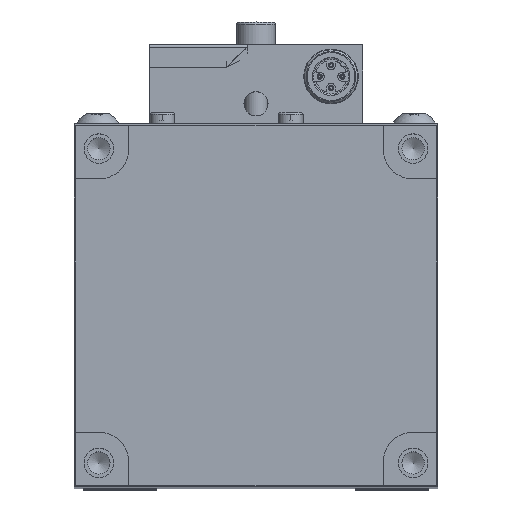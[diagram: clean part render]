
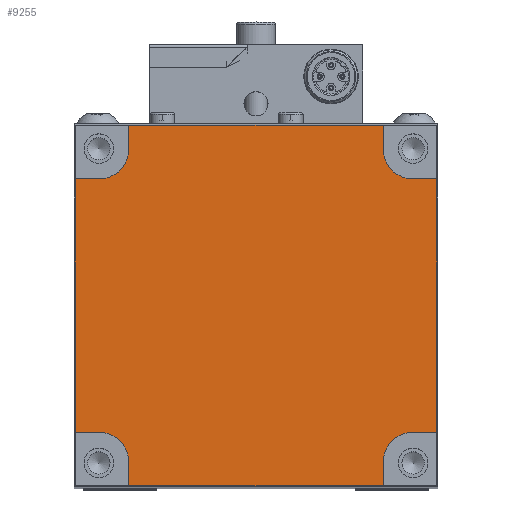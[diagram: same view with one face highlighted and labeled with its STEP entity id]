
A CAD part, top view. The second image highlights one B-rep face of the part: STEP entity #9255.
In plain terms, the highlighted planar face has unit normal (0, 0, 1).
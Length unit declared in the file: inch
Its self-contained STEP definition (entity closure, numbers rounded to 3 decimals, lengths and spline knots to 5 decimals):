
#363=PLANE('',#9994);
#849=FACE_OUTER_BOUND('',#1386,.T.);
#1386=EDGE_LOOP('',(#6848,#6849,#6850,#6851,#6852,#6853,#6854,#6855,#6856,
#6857,#6858,#6859,#6860,#6861,#6862,#6863));
#1976=LINE('',#14865,#2641);
#1983=LINE('',#14886,#2648);
#1990=LINE('',#14904,#2655);
#1994=LINE('',#14912,#2659);
#2002=LINE('',#14927,#2667);
#2007=LINE('',#14941,#2672);
#2010=LINE('',#14946,#2675);
#2013=LINE('',#14957,#2678);
#2015=LINE('',#14961,#2680);
#2016=LINE('',#14964,#2681);
#2017=LINE('',#14967,#2682);
#2018=LINE('',#14970,#2683);
#2641=VECTOR('',#11662,0.3937);
#2648=VECTOR('',#11679,0.3937);
#2655=VECTOR('',#11694,0.3937);
#2659=VECTOR('',#11700,0.3937);
#2667=VECTOR('',#11710,0.3937);
#2672=VECTOR('',#11723,0.3937);
#2675=VECTOR('',#11728,0.3937);
#2678=VECTOR('',#11739,0.3937);
#2680=VECTOR('',#11743,0.3937);
#2681=VECTOR('',#11746,0.3937);
#2682=VECTOR('',#11749,0.3937);
#2683=VECTOR('',#11752,0.3937);
#3284=CIRCLE('',#9995,0.25);
#3285=CIRCLE('',#9996,0.25);
#3286=CIRCLE('',#9997,0.25);
#3287=CIRCLE('',#9998,0.25);
#3972=VERTEX_POINT('',#14862);
#3973=VERTEX_POINT('',#14864);
#3981=VERTEX_POINT('',#14883);
#3982=VERTEX_POINT('',#14885);
#3989=VERTEX_POINT('',#14903);
#3991=VERTEX_POINT('',#14909);
#3992=VERTEX_POINT('',#14911);
#3997=VERTEX_POINT('',#14924);
#3998=VERTEX_POINT('',#14926);
#4003=VERTEX_POINT('',#14940);
#4004=VERTEX_POINT('',#14944);
#4008=VERTEX_POINT('',#14956);
#4009=VERTEX_POINT('',#14960);
#4010=VERTEX_POINT('',#14963);
#4011=VERTEX_POINT('',#14966);
#4012=VERTEX_POINT('',#14968);
#5026=EDGE_CURVE('',#3973,#3972,#1976,.T.);
#5036=EDGE_CURVE('',#3982,#3981,#1983,.T.);
#5045=EDGE_CURVE('',#3989,#3973,#1990,.T.);
#5049=EDGE_CURVE('',#3992,#3991,#1994,.T.);
#5057=EDGE_CURVE('',#3998,#3997,#2002,.T.);
#5064=EDGE_CURVE('',#4003,#3992,#2007,.T.);
#5067=EDGE_CURVE('',#3981,#4004,#2010,.T.);
#5072=EDGE_CURVE('',#4008,#3998,#2013,.T.);
#5074=EDGE_CURVE('',#3972,#4009,#2015,.T.);
#5075=EDGE_CURVE('',#4009,#4008,#3284,.T.);
#5076=EDGE_CURVE('',#3997,#4010,#2016,.T.);
#5077=EDGE_CURVE('',#4010,#4003,#3285,.T.);
#5078=EDGE_CURVE('',#3991,#4011,#2017,.T.);
#5079=EDGE_CURVE('',#4011,#4012,#3286,.T.);
#5080=EDGE_CURVE('',#4012,#3982,#2018,.T.);
#5081=EDGE_CURVE('',#4004,#3989,#3287,.T.);
#6848=ORIENTED_EDGE('',*,*,#5026,.T.);
#6849=ORIENTED_EDGE('',*,*,#5074,.T.);
#6850=ORIENTED_EDGE('',*,*,#5075,.T.);
#6851=ORIENTED_EDGE('',*,*,#5072,.T.);
#6852=ORIENTED_EDGE('',*,*,#5057,.T.);
#6853=ORIENTED_EDGE('',*,*,#5076,.T.);
#6854=ORIENTED_EDGE('',*,*,#5077,.T.);
#6855=ORIENTED_EDGE('',*,*,#5064,.T.);
#6856=ORIENTED_EDGE('',*,*,#5049,.T.);
#6857=ORIENTED_EDGE('',*,*,#5078,.T.);
#6858=ORIENTED_EDGE('',*,*,#5079,.T.);
#6859=ORIENTED_EDGE('',*,*,#5080,.T.);
#6860=ORIENTED_EDGE('',*,*,#5036,.T.);
#6861=ORIENTED_EDGE('',*,*,#5067,.T.);
#6862=ORIENTED_EDGE('',*,*,#5081,.T.);
#6863=ORIENTED_EDGE('',*,*,#5045,.T.);
#9255=ADVANCED_FACE('',(#849),#363,.T.);
#9994=AXIS2_PLACEMENT_3D('',#14959,#11741,#11742);
#9995=AXIS2_PLACEMENT_3D('',#14962,#11744,#11745);
#9996=AXIS2_PLACEMENT_3D('',#14965,#11747,#11748);
#9997=AXIS2_PLACEMENT_3D('',#14969,#11750,#11751);
#9998=AXIS2_PLACEMENT_3D('',#14971,#11753,#11754);
#11662=DIRECTION('',(-1.,0.,0.));
#11679=DIRECTION('',(0.,1.,0.));
#11694=DIRECTION('',(0.,1.,0.));
#11700=DIRECTION('',(1.,0.,0.));
#11710=DIRECTION('',(0.,-1.,0.));
#11723=DIRECTION('',(0.,-1.,0.));
#11728=DIRECTION('',(-1.,0.,0.));
#11739=DIRECTION('',(-1.,0.,0.));
#11741=DIRECTION('center_axis',(0.,0.,
1.));
#11742=DIRECTION('ref_axis',(0.,-1.,0.));
#11743=DIRECTION('',(0.,-1.,0.));
#11744=DIRECTION('center_axis',(0.,0.,
-1.));
#11745=DIRECTION('ref_axis',(0.,-1.,0.));
#11746=DIRECTION('',(1.,0.,0.));
#11747=DIRECTION('center_axis',(0.,0.,
-1.));
#11748=DIRECTION('ref_axis',(1.,0.,0.));
#11749=DIRECTION('',(0.,1.,0.));
#11750=DIRECTION('center_axis',(0.,0.,
-1.));
#11751=DIRECTION('ref_axis',(0.,1.,0.));
#11752=DIRECTION('',(1.,0.,0.));
#11753=DIRECTION('center_axis',(0.,0.,
-1.));
#11754=DIRECTION('ref_axis',(-1.,0.,0.));
#14862=CARTESIAN_POINT('',(-1.64975,1.55922,6.5505));
#14864=CARTESIAN_POINT('',(0.55625,1.55922,6.5505));
#14865=CARTESIAN_POINT('',(-1.33425,1.55922,6.5505));
#14883=CARTESIAN_POINT('',(1.01825,1.09722,6.5505));
#14885=CARTESIAN_POINT('',(1.01825,-1.09878,6.5505));
#14886=CARTESIAN_POINT('',(1.01825,0.78672,6.5505));
#14903=CARTESIAN_POINT('',(0.55625,1.34722,6.5505));
#14904=CARTESIAN_POINT('',(0.55625,0.78672,6.5505));
#14909=CARTESIAN_POINT('',(0.55625,-1.56078,6.5505));
#14911=CARTESIAN_POINT('',(-1.64975,-1.56078,6.5505));
#14912=CARTESIAN_POINT('',(0.24075,-1.56078,6.5505));
#14924=CARTESIAN_POINT('',(-2.11175,-1.09878,6.5505));
#14926=CARTESIAN_POINT('',(-2.11175,1.09722,6.5505));
#14927=CARTESIAN_POINT('',(-2.11175,-0.78828,6.5505));
#14940=CARTESIAN_POINT('',(-1.64975,-1.34878,6.5505));
#14941=CARTESIAN_POINT('',(-1.64975,-0.78828,6.5505));
#14944=CARTESIAN_POINT('',(0.80625,1.09722,6.5505));
#14946=CARTESIAN_POINT('',(0.12975,1.09722,6.5505));
#14956=CARTESIAN_POINT('',(-1.89975,1.09722,6.5505));
#14957=CARTESIAN_POINT('',(-1.33425,1.09722,6.5505));
#14959=CARTESIAN_POINT('Origin',(-0.54675,-0.00078,
6.5505));
#14960=CARTESIAN_POINT('',(-1.64975,1.34722,6.5505));
#14961=CARTESIAN_POINT('',(-1.64975,0.67322,6.5505));
#14962=CARTESIAN_POINT('Origin',(-1.89975,1.34722,6.5505));
#14963=CARTESIAN_POINT('',(-1.89975,-1.09878,6.5505));
#14964=CARTESIAN_POINT('',(-1.22325,-1.09878,6.5505));
#14965=CARTESIAN_POINT('Origin',(-1.89975,-1.34878,6.5505));
#14966=CARTESIAN_POINT('',(0.55625,-1.34878,6.5505));
#14967=CARTESIAN_POINT('',(0.55625,-0.67478,6.5505));
#14968=CARTESIAN_POINT('',(0.80625,-1.09878,6.5505));
#14969=CARTESIAN_POINT('Origin',(0.80625,-1.34878,6.5505));
#14970=CARTESIAN_POINT('',(0.24075,-1.09878,6.5505));
#14971=CARTESIAN_POINT('Origin',(0.80625,1.34722,6.5505));
